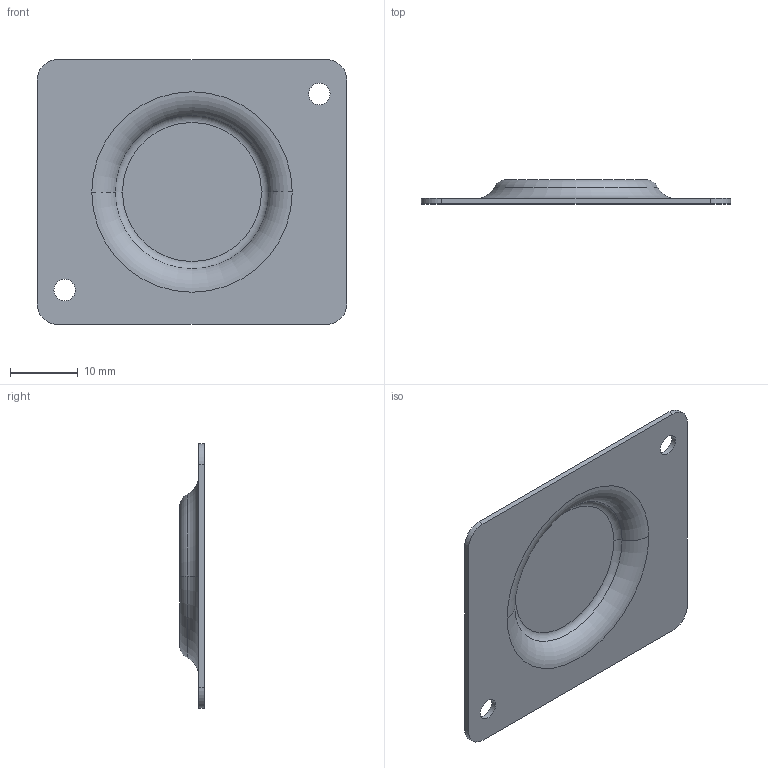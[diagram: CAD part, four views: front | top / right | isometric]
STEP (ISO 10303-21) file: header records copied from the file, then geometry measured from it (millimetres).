
FILE_DESCRIPTION((''),'2;1');
FILE_NAME('3868033','2016-10-11T',('rrich'),('Keithley Instruments'),'CREO PARAMETRIC BY PTC INC, 2016050','CREO PARAMETRIC BY PTC INC, 2016050','');
FILE_SCHEMA(('CONFIG_CONTROL_DESIGN'));
Length unit declared in the file: inch
Products named in the file (1): 3868033
Bounding box: 45.72 x 3.61 x 39.12 mm (x, y, z)
Volume: 1500.1 mm3; surface area: 3841.1 mm2
Topology: 1 solids, 1 shells, 24 faces, 56 edges, 36 vertices
Faces by surface type: plane 8, cylinder 8, torus 8
Entity records: 752 total; most frequent: DIRECTION 140, CARTESIAN_POINT 116, ORIENTED_EDGE 112, AXIS2_PLACEMENT_3D 60, EDGE_CURVE 56, VERTEX_POINT 36, CIRCLE 36, EDGE_LOOP 30
